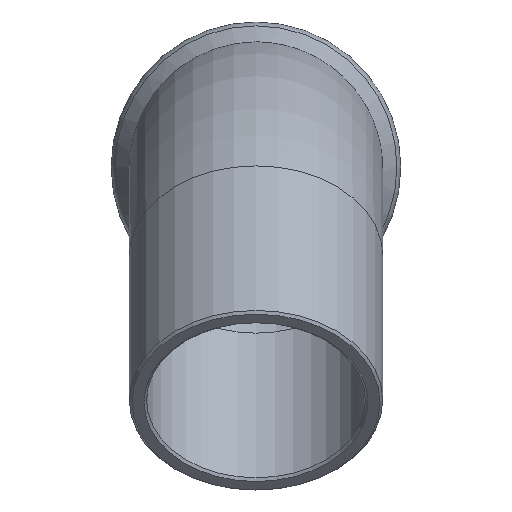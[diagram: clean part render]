
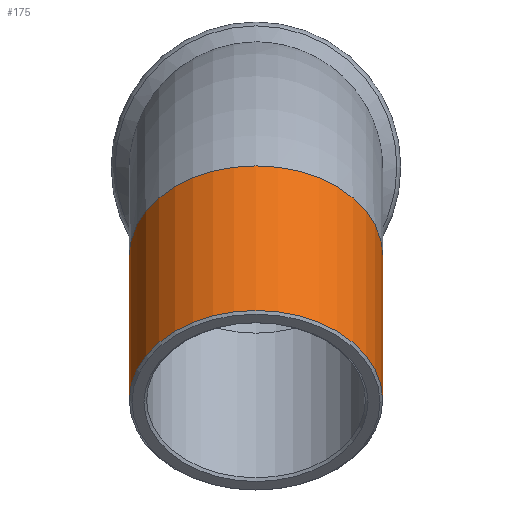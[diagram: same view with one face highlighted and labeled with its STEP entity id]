
A CAD part, top view. The second image highlights one B-rep face of the part: STEP entity #175.
In plain terms, the highlighted cylindrical face has radius 9.525 mm (diameter 19.05 mm), a full revolution.
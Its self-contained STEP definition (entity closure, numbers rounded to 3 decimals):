
#144=CARTESIAN_POINT('',(9.525,5.303,27.082));
#145=VERTEX_POINT('',#144);
#146=CARTESIAN_POINT('',(0.0,5.303,27.082));
#147=DIRECTION('',(0.0,-0.707,0.707));
#148=DIRECTION('',(-1.0,0.0,0.0));
#149=AXIS2_PLACEMENT_3D('',#146,#147,#148);
#150=CIRCLE('',#149,9.525);
#151=EDGE_CURVE('',#145,#145,#150,.T.);
#156=CARTESIAN_POINT('',(0.0,16.193,16.193));
#157=DIRECTION('',(0.0,-0.707,0.707));
#158=DIRECTION('',(-1.0,0.0,0.0));
#159=AXIS2_PLACEMENT_3D('',#156,#157,#158);
#160=CYLINDRICAL_SURFACE('',#159,9.525);
#161=CARTESIAN_POINT('',(9.525,16.193,16.193));
#162=VERTEX_POINT('',#161);
#163=CARTESIAN_POINT('',(0.0,16.193,16.193));
#164=DIRECTION('',(0.0,0.707,-0.707));
#165=DIRECTION('',(-1.0,0.0,0.0));
#166=AXIS2_PLACEMENT_3D('',#163,#164,#165);
#167=CIRCLE('',#166,9.525);
#168=EDGE_CURVE('',#162,#162,#167,.T.);
#169=ORIENTED_EDGE('',*,*,#168,.F.);
#170=EDGE_LOOP('',(#169));
#171=FACE_OUTER_BOUND('',#170,.T.);
#172=ORIENTED_EDGE('',*,*,#151,.F.);
#173=EDGE_LOOP('',(#172));
#174=FACE_BOUND('',#173,.T.);
#175=ADVANCED_FACE('',(#171,#174),#160,.T.);
